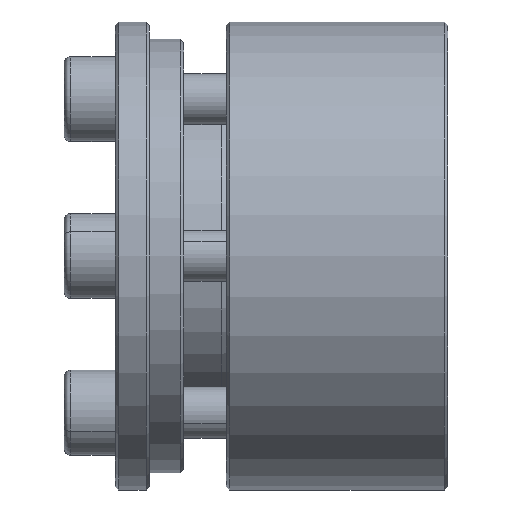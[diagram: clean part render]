
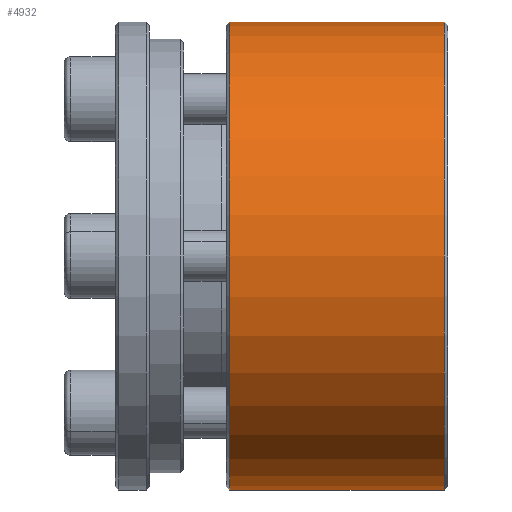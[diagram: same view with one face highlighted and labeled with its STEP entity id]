
A CAD part, front view. The second image highlights one B-rep face of the part: STEP entity #4932.
In plain terms, the highlighted cylindrical face has radius 27.46 mm (diameter 54.92 mm), a partial arc.
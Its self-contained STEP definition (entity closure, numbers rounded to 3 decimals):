
#326 = CARTESIAN_POINT ( 'NONE',  ( -92.366, 26.04, 27.46 ) ) ;
#421 = CARTESIAN_POINT ( 'NONE',  ( -67.166, 26.04, 27.46 ) ) ;
#483 = DIRECTION ( 'NONE',  ( -1., 0., 0. ) ) ;
#497 = DIRECTION ( 'NONE',  ( -1., 0., 0. ) ) ;
#534 = ORIENTED_EDGE ( 'NONE', *, *, #6050, .T. ) ;
#564 = VERTEX_POINT ( 'NONE', #421 ) ;
#656 = EDGE_LOOP ( 'NONE', ( #2352, #1564, #534, #3706 ) ) ;
#749 = AXIS2_PLACEMENT_3D ( 'NONE', #4695, #783, #3518 ) ;
#783 = DIRECTION ( 'NONE',  ( 1., 0., 0. ) ) ;
#881 = EDGE_CURVE ( 'NONE', #6611, #564, #5231, .T. ) ;
#1187 = FACE_OUTER_BOUND ( 'NONE', #656, .T. ) ;
#1224 = AXIS2_PLACEMENT_3D ( 'NONE', #2232, #497, #3735 ) ;
#1292 = DIRECTION ( 'NONE',  ( -1., 0., 0. ) ) ;
#1475 = EDGE_CURVE ( 'NONE', #6611, #2467, #2577, .T. ) ;
#1564 = ORIENTED_EDGE ( 'NONE', *, *, #881, .T. ) ;
#1785 = EDGE_CURVE ( 'NONE', #4225, #2467, #2019, .T. ) ;
#2019 = CIRCLE ( 'NONE', #749, 27.46 ) ;
#2186 = CARTESIAN_POINT ( 'NONE',  ( -92.766, 26.04, -27.46 ) ) ;
#2225 = DIRECTION ( 'NONE',  ( -1., 0., 0. ) ) ;
#2232 = CARTESIAN_POINT ( 'NONE',  ( -67.166, 26.04, 0. ) ) ;
#2352 = ORIENTED_EDGE ( 'NONE', *, *, #1475, .F. ) ;
#2467 = VERTEX_POINT ( 'NONE', #4486 ) ;
#2577 = LINE ( 'NONE', #2186, #6134 ) ;
#3518 = DIRECTION ( 'NONE',  ( 0., 0., -1. ) ) ;
#3706 = ORIENTED_EDGE ( 'NONE', *, *, #1785, .T. ) ;
#3735 = DIRECTION ( 'NONE',  ( 0., 0., 1. ) ) ;
#3935 = CYLINDRICAL_SURFACE ( 'NONE', #5148, 27.46 ) ;
#4225 = VERTEX_POINT ( 'NONE', #326 ) ;
#4486 = CARTESIAN_POINT ( 'NONE',  ( -92.366, 26.04, -27.46 ) ) ;
#4695 = CARTESIAN_POINT ( 'NONE',  ( -92.366, 26.04, 0. ) ) ;
#4932 = ADVANCED_FACE ( 'NONE', ( #1187 ), #3935, .T. ) ;
#4969 = LINE ( 'NONE', #5482, #5544 ) ;
#5148 = AXIS2_PLACEMENT_3D ( 'NONE', #6109, #1292, #5538 ) ;
#5231 = CIRCLE ( 'NONE', #1224, 27.46 ) ;
#5482 = CARTESIAN_POINT ( 'NONE',  ( -92.766, 26.04, 27.46 ) ) ;
#5538 = DIRECTION ( 'NONE',  ( 0., 0., 1. ) ) ;
#5544 = VECTOR ( 'NONE', #2225, 1000. ) ;
#6050 = EDGE_CURVE ( 'NONE', #564, #4225, #4969, .T. ) ;
#6109 = CARTESIAN_POINT ( 'NONE',  ( -92.766, 26.04, 0. ) ) ;
#6134 = VECTOR ( 'NONE', #483, 1000. ) ;
#6276 = CARTESIAN_POINT ( 'NONE',  ( -67.166, 26.04, -27.46 ) ) ;
#6611 = VERTEX_POINT ( 'NONE', #6276 ) ;
